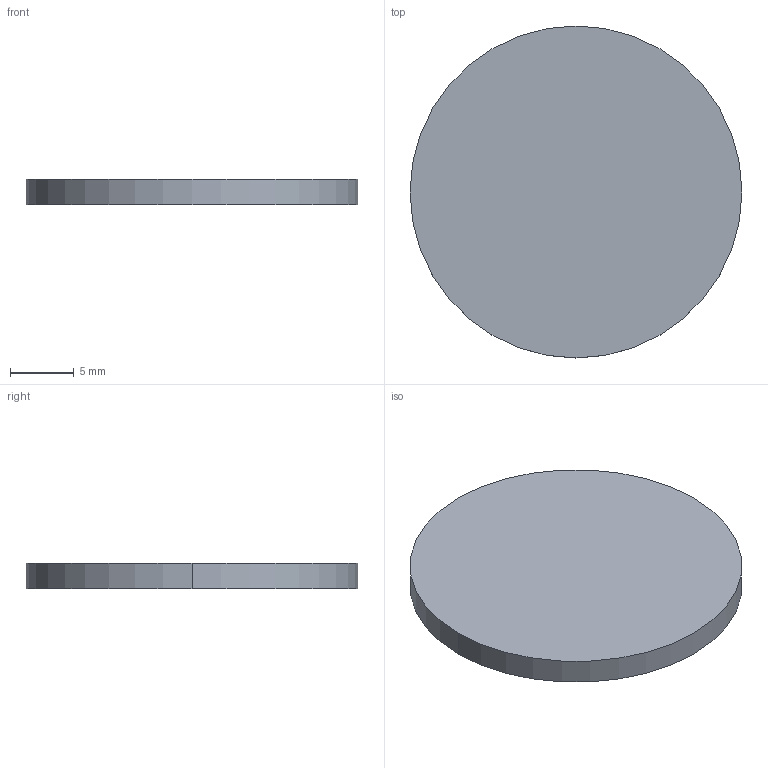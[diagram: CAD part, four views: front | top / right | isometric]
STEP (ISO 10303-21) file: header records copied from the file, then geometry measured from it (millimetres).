
FILE_DESCRIPTION (( 'STEP AP214' ), '1' );
FILE_NAME ('G_3.STEP', '2016-02-27T15:50:29', ( '' ), ( '' ), 'SwSTEP 2.0', 'SolidWorks 2012', '' );
FILE_SCHEMA (( 'AUTOMOTIVE_DESIGN' ));
Length unit declared in the file: millimetre
Products named in the file (1): G_3
Bounding box: 26 x 26 x 2 mm (x, y, z)
Volume: 1061.9 mm3; surface area: 1225.2 mm2
Topology: 1 solids, 1 shells, 4 faces, 6 edges, 4 vertices
Faces by surface type: cylinder 2, plane 2
Entity records: 128 total; most frequent: DIRECTION 20, CARTESIAN_POINT 15, ORIENTED_EDGE 12, AXIS2_PLACEMENT_3D 9, EDGE_CURVE 6, ADVANCED_FACE 4, EDGE_LOOP 4, FACE_OUTER_BOUND 4
